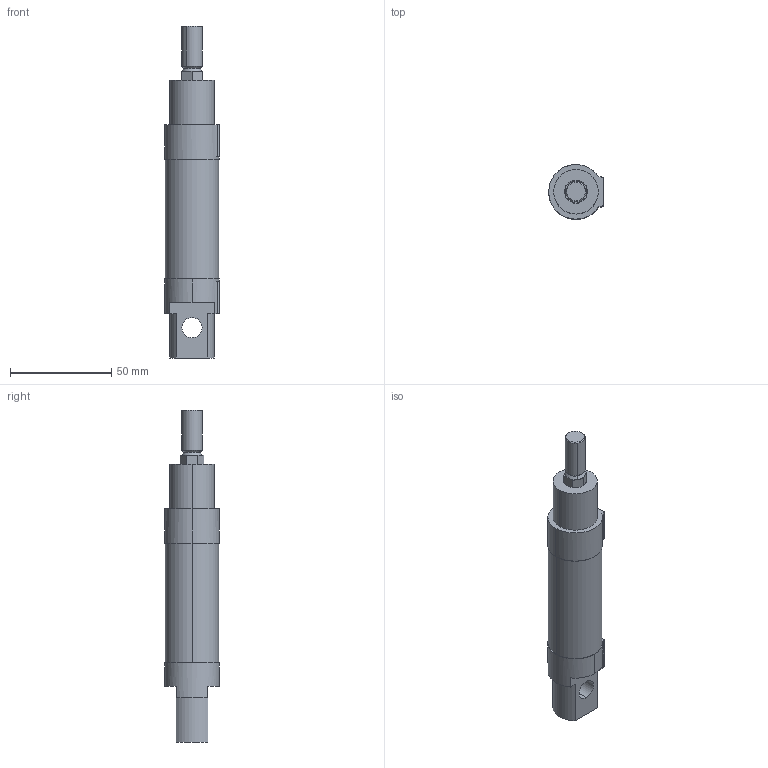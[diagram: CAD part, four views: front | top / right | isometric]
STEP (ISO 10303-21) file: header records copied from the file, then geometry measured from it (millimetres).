
FILE_DESCRIPTION (( 'STEP AP203' ), '1' );
FILE_NAME ('MAAT-S-25X25-CYLINDER.STEP', '2017-01-26T10:57:50', ( 'user' ), ( '' ), 'SwSTEP 2.0', 'SolidWorks 2013', '' );
FILE_SCHEMA (( 'CONFIG_CONTROL_DESIGN' ));
Length unit declared in the file: millimetre
Products named in the file (5): MAAT-S  25 烰 KAPAK  ; MAAT-S-25X25-CYLINDER; MAAT-S  25X25 BORU; MAAT-S  25 ARKA KAPAK ; MAAT-S  25X25 M尳
Assembly tree (4 placements, depth 2):
  MAAT-S-25X25-CYLINDER
    MAAT-S  25 ARKA KAPAK 
    MAAT-S  25 烰 KAPAK  
    MAAT-S  25X25 BORU
    MAAT-S  25X25 M尳
Bounding box: 27 x 27 x 164.2 mm (x, y, z)
Volume: 54475.1 mm3; surface area: 27405 mm2
Topology: 4 solids, 4 shells, 97 faces, 221 edges, 139 vertices
Faces by surface type: plane 48, cylinder 36, cone 13
Entity records: 3383 total; most frequent: CARTESIAN_POINT 604, DIRECTION 508, ORIENTED_EDGE 442, EDGE_CURVE 221, AXIS2_PLACEMENT_3D 193, VERTEX_POINT 139, LINE 122, VECTOR 122
